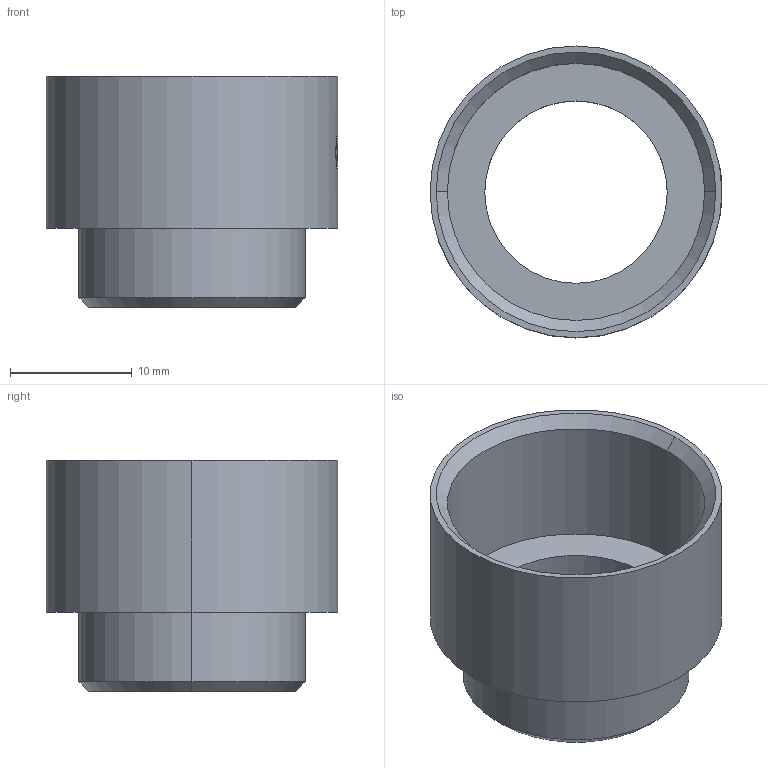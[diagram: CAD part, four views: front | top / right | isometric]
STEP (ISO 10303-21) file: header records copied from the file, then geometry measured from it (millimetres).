
FILE_DESCRIPTION (( 'STEP AP203' ), '1' );
FILE_NAME ('1116.STEP', '2005-11-22T09:34:40', ( ' ' ), ( '' ), 'SwSTEP 2.0', 'SolidWorks 2005278', '' );
FILE_SCHEMA (( 'CONFIG_CONTROL_DESIGN' ));
Length unit declared in the file: millimetre
Products named in the file (1): 1116
Bounding box: 24 x 24 x 19 mm (x, y, z)
Volume: 2004 mm3; surface area: 2932.1 mm2
Topology: 1 solids, 1 shells, 54 faces, 141 edges, 92 vertices
Faces by surface type: plane 38, cylinder 12, cone 4
Entity records: 1768 total; most frequent: CARTESIAN_POINT 348, ORIENTED_EDGE 282, DIRECTION 281, EDGE_CURVE 141, AXIS2_PLACEMENT_3D 105, VERTEX_POINT 92, VECTOR 71, LINE 71
